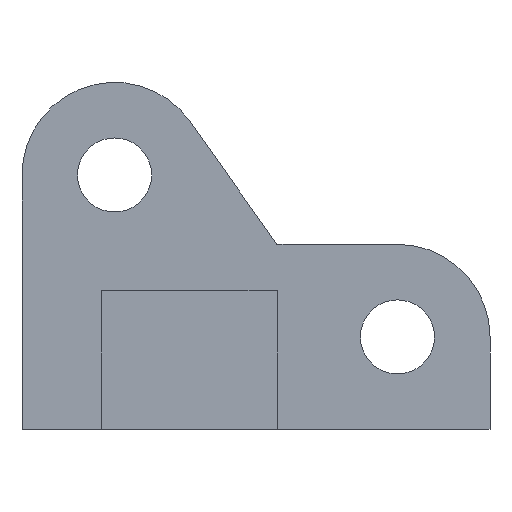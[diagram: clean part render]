
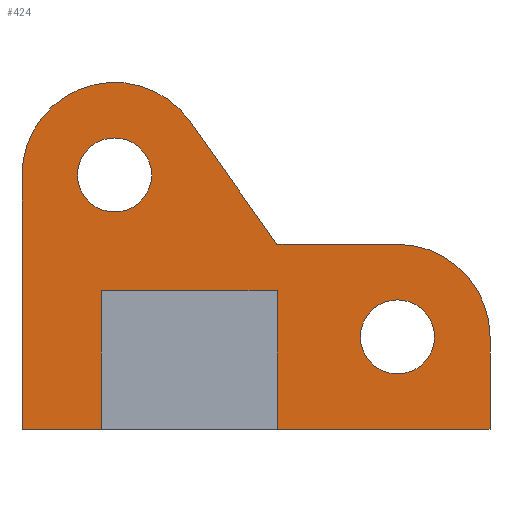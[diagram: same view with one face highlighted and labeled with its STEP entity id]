
A CAD part, left-side view. The second image highlights one B-rep face of the part: STEP entity #424.
In plain terms, the highlighted planar face has unit normal (-1, 0, 0).
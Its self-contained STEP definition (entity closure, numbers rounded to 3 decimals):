
#23=FACE_BOUND('',#87,.T.);
#24=FACE_BOUND('',#88,.T.);
#35=PLANE('',#480);
#59=FACE_OUTER_BOUND('',#86,.T.);
#86=EDGE_LOOP('',(#361,#362,#363,#364,#365,#366,#367,#368,#369,#370,#371));
#87=EDGE_LOOP('',(#372));
#88=EDGE_LOOP('',(#373));
#106=LINE('',#701,#142);
#109=LINE('',#707,#145);
#114=LINE('',#723,#150);
#120=LINE('',#736,#156);
#121=LINE('',#739,#157);
#122=LINE('',#741,#158);
#123=LINE('',#743,#159);
#124=LINE('',#745,#160);
#125=LINE('',#746,#161);
#142=VECTOR('',#551,10.);
#145=VECTOR('',#556,10.);
#150=VECTOR('',#573,10.);
#156=VECTOR('',#587,10.);
#157=VECTOR('',#590,10.);
#158=VECTOR('',#591,10.);
#159=VECTOR('',#592,10.);
#160=VECTOR('',#593,10.);
#161=VECTOR('',#594,10.);
#178=CIRCLE('',#465,1.6);
#179=CIRCLE('',#467,1.6);
#181=CIRCLE('',#472,4.);
#182=CIRCLE('',#474,4.);
#204=VERTEX_POINT('',#690);
#205=VERTEX_POINT('',#694);
#206=VERTEX_POINT('',#698);
#207=VERTEX_POINT('',#700);
#209=VERTEX_POINT('',#706);
#211=VERTEX_POINT('',#711);
#212=VERTEX_POINT('',#716);
#214=VERTEX_POINT('',#722);
#217=VERTEX_POINT('',#734);
#218=VERTEX_POINT('',#738);
#219=VERTEX_POINT('',#740);
#220=VERTEX_POINT('',#742);
#221=VERTEX_POINT('',#744);
#247=EDGE_CURVE('',#204,#204,#178,.T.);
#250=EDGE_CURVE('',#205,#205,#179,.T.);
#252=EDGE_CURVE('',#207,#206,#106,.T.);
#255=EDGE_CURVE('',#209,#207,#109,.T.);
#259=EDGE_CURVE('',#211,#209,#181,.T.);
#261=EDGE_CURVE('',#206,#212,#182,.T.);
#263=EDGE_CURVE('',#214,#211,#114,.T.);
#270=EDGE_CURVE('',#212,#217,#120,.T.);
#271=EDGE_CURVE('',#218,#217,#121,.T.);
#272=EDGE_CURVE('',#219,#218,#122,.T.);
#273=EDGE_CURVE('',#220,#219,#123,.T.);
#274=EDGE_CURVE('',#221,#220,#124,.F.);
#275=EDGE_CURVE('',#221,#214,#125,.T.);
#361=ORIENTED_EDGE('',*,*,#261,.T.);
#362=ORIENTED_EDGE('',*,*,#270,.T.);
#363=ORIENTED_EDGE('',*,*,#271,.F.);
#364=ORIENTED_EDGE('',*,*,#272,.F.);
#365=ORIENTED_EDGE('',*,*,#273,.F.);
#366=ORIENTED_EDGE('',*,*,#274,.F.);
#367=ORIENTED_EDGE('',*,*,#275,.T.);
#368=ORIENTED_EDGE('',*,*,#263,.T.);
#369=ORIENTED_EDGE('',*,*,#259,.T.);
#370=ORIENTED_EDGE('',*,*,#255,.T.);
#371=ORIENTED_EDGE('',*,*,#252,.T.);
#372=ORIENTED_EDGE('',*,*,#250,.T.);
#373=ORIENTED_EDGE('',*,*,#247,.F.);
#424=ADVANCED_FACE('',(#59,#23,#24),#35,.F.);
#465=AXIS2_PLACEMENT_3D('',#691,#540,#541);
#467=AXIS2_PLACEMENT_3D('',#696,#546,#547);
#472=AXIS2_PLACEMENT_3D('',#714,#563,#564);
#474=AXIS2_PLACEMENT_3D('',#718,#568,#569);
#480=AXIS2_PLACEMENT_3D('',#737,#588,#589);
#540=DIRECTION('center_axis',(-1.,0.,0.));
#541=DIRECTION('ref_axis',(0.,1.,0.));
#546=DIRECTION('center_axis',(1.,0.,0.));
#547=DIRECTION('ref_axis',(0.,1.,0.));
#551=DIRECTION('',(0.,0.577,0.816));
#556=DIRECTION('',(0.,1.,0.));
#563=DIRECTION('center_axis',(-1.,0.,0.));
#564=DIRECTION('ref_axis',(0.,-1.,0.));
#568=DIRECTION('center_axis',(-1.,0.,0.));
#569=DIRECTION('ref_axis',(0.,-1.,0.));
#573=DIRECTION('',(0.,0.,1.));
#587=DIRECTION('',(0.,0.,-1.));
#588=DIRECTION('center_axis',(1.,0.,0.));
#589=DIRECTION('ref_axis',(0.,-1.,0.));
#590=DIRECTION('',(0.,1.,0.));
#591=DIRECTION('',(0.,0.,-1.));
#592=DIRECTION('',(0.,1.,0.));
#593=DIRECTION('',(0.,0.,-1.));
#594=DIRECTION('',(0.,-1.,0.));
#690=CARTESIAN_POINT('',(41.226,-300.973,32.048));
#691=CARTESIAN_POINT('Origin',(41.226,-299.373,32.048));
#694=CARTESIAN_POINT('',(41.226,-313.2,25.048));
#696=CARTESIAN_POINT('Origin',(41.226,-311.6,25.048));
#698=CARTESIAN_POINT('',(41.226,-302.639,34.357));
#700=CARTESIAN_POINT('',(41.226,-306.393,29.048));
#701=CARTESIAN_POINT('',(41.226,-305.412,30.436));
#706=CARTESIAN_POINT('',(41.226,-311.6,29.048));
#707=CARTESIAN_POINT('',(41.226,-300.997,29.048));
#711=CARTESIAN_POINT('',(41.226,-315.6,25.048));
#714=CARTESIAN_POINT('Origin',(41.226,-311.6,25.048));
#716=CARTESIAN_POINT('',(41.226,-295.373,32.048));
#718=CARTESIAN_POINT('Origin',(41.226,-299.373,32.048));
#722=CARTESIAN_POINT('',(41.226,-315.6,21.048));
#723=CARTESIAN_POINT('',(41.226,-315.6,29.287));
#734=CARTESIAN_POINT('',(41.226,-295.373,21.048));
#736=CARTESIAN_POINT('',(41.226,-295.373,30.048));
#737=CARTESIAN_POINT('Origin',(41.226,-297.6,28.048));
#738=CARTESIAN_POINT('',(41.226,-298.8,21.048));
#739=CARTESIAN_POINT('',(41.226,-307.6,21.048));
#740=CARTESIAN_POINT('',(41.226,-298.8,27.048));
#741=CARTESIAN_POINT('',(41.226,-298.8,24.548));
#742=CARTESIAN_POINT('',(41.226,-306.4,27.048));
#743=CARTESIAN_POINT('',(41.226,-298.2,27.048));
#744=CARTESIAN_POINT('',(41.226,-306.4,21.048));
#745=CARTESIAN_POINT('',(41.226,-306.4,24.548));
#746=CARTESIAN_POINT('',(41.226,-307.6,21.048));
